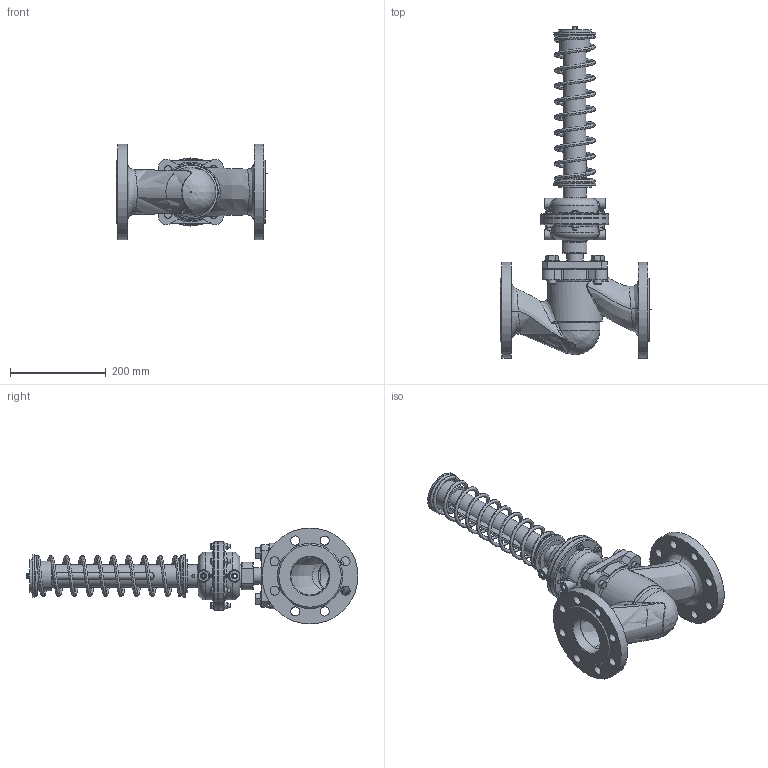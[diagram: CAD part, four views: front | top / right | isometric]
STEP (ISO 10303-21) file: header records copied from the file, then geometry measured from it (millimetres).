
FILE_DESCRIPTION(('STEP AP203'), '1');
FILE_NAME('PA_80-íåðàçáîðíûé.stp', '2017-07-14T08:46:30', ('UNSPECIFIED'), ('UNSPECIFIED'), 'ASCON STEP Converter 1.0', 'Kompas 3D', '');
FILE_SCHEMA(('CONFIG_CONTROL_DESIGN'));
Length unit declared in the file: millimetre
Products named in the file (1): 14
Bounding box: 314.77 x 692 x 200 mm (x, y, z)
Volume: 3219103 mm3; surface area: 763916.6 mm2
Topology: 3 solids, 4 shells, 705 faces, 1656 edges, 1029 vertices
Faces by surface type: plane 249, cylinder 189, bspline 125, cone 88, torus 53, sphere 1
Full cylindrical faces by diameter (mm): 2 x1, 4 x1, 6.5 x1, 7 x4, 8 x6, 10 x1, 10.5 x4, 11 x2, 12 x3, 13.7 x1, 14 x1, 14.5 x3, 15 x3, 16 x7, 17 x5, 18 x4, 19 x16, 20 x6, 22 x4, 28 x1, 30 x6, 31.5 x1, 34 x2, 39.5 x1, 41 x1, 42 x3, 46 x2, 48 x4, 48.5 x1, 52.5 x1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
Entity records: 55322 total; most frequent: CARTESIAN_POINT 40149, ORIENTED_EDGE 3302, DIRECTION 2765, EDGE_CURVE 1651, AXIS2_PLACEMENT_3D 1111, VERTEX_POINT 1029, EDGE_LOOP 850, ADVANCED_FACE 705
